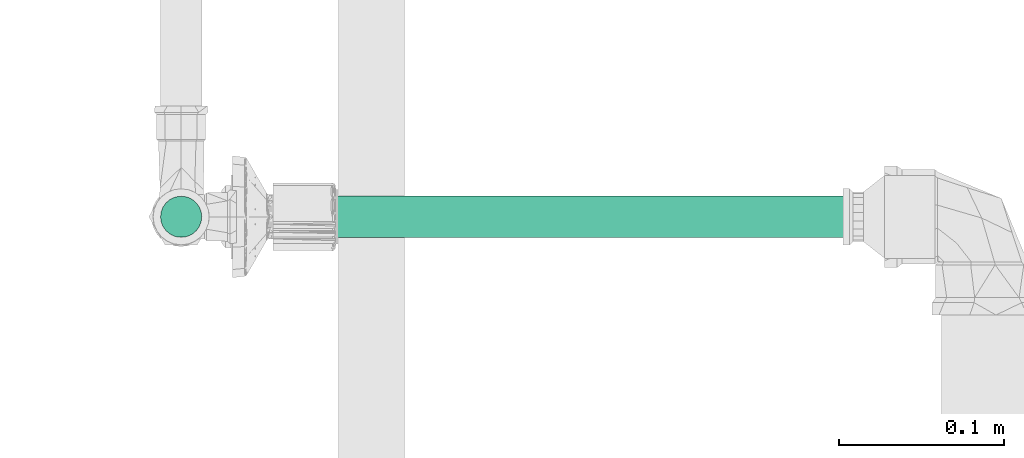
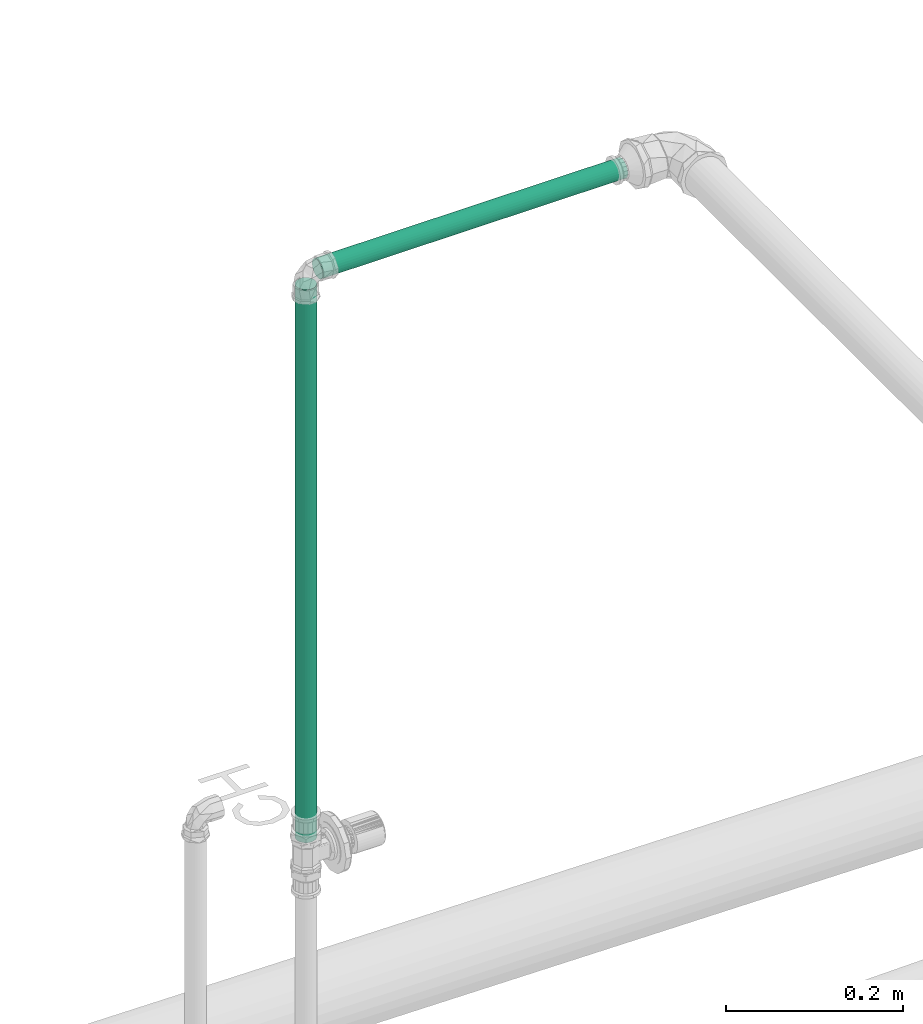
# One storey, part 94 of 589: 2 flow segments.
"""IFC2X3 building model written with IfcOpenShell, lengths in millimetres."""

from ifc_helpers import new_model, entity, si_unit, converted_unit, derived_unit, direction, frame, frame_2d, origin, origin_2d_with_axis, place, context, subcontext, project, spatial, circle, extrude, type_object, element, save


model = new_model("IFC2X3")

# Units and contexts
model_context = context("Model", 3, precision=0.01, world=origin(), true_north=direction((6.123031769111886e-17, 1.0)))
body_context = subcontext(model_context, "Body", "Model", "MODEL_VIEW")
ifc_project = project(units=[si_unit("LENGTHUNIT", "METRE", prefix="MILLI"), si_unit("AREAUNIT", "SQUARE_METRE"), si_unit("VOLUMEUNIT", "CUBIC_METRE"), converted_unit("PLANEANGLEUNIT", "DEGREE", entity("IfcRatioMeasure", 0.017453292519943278), si_unit("PLANEANGLEUNIT", "RADIAN"), dimensions=[0, 0, 0, 0, 0, 0, 0]), si_unit("MASSUNIT", "GRAM", prefix="KILO"), derived_unit("MASSDENSITYUNIT", [(si_unit("MASSUNIT", "GRAM", prefix="KILO"), 1), (si_unit("LENGTHUNIT", "METRE"), -3)]), derived_unit("IONCONCENTRATIONUNIT", [(si_unit("MASSUNIT", "GRAM", prefix="KILO"), 1), (si_unit("LENGTHUNIT", "METRE"), -3)]), derived_unit("MOMENTOFINERTIAUNIT", [(si_unit("LENGTHUNIT", "METRE"), 4)]), si_unit("TIMEUNIT", "SECOND"), si_unit("FREQUENCYUNIT", "HERTZ"), si_unit("THERMODYNAMICTEMPERATUREUNIT", "DEGREE_CELSIUS"), derived_unit("THERMALTRANSMITTANCEUNIT", [(si_unit("MASSUNIT", "GRAM", prefix="KILO"), 1), (si_unit("THERMODYNAMICTEMPERATUREUNIT", "KELVIN"), -1), (si_unit("TIMEUNIT", "SECOND"), -3)]), derived_unit("THERMALCONDUCTANCEUNIT", [(si_unit("MASSUNIT", "GRAM", prefix="KILO"), 1), (si_unit("THERMODYNAMICTEMPERATUREUNIT", "KELVIN"), -1), (si_unit("TIMEUNIT", "SECOND"), -3), (si_unit("LENGTHUNIT", "METRE"), 1)]), derived_unit("VOLUMETRICFLOWRATEUNIT", [(si_unit("LENGTHUNIT", "METRE"), 3), (si_unit("TIMEUNIT", "SECOND"), -1)]), derived_unit("MASSFLOWRATEUNIT", [(si_unit("MASSUNIT", "GRAM", prefix="KILO"), 1), (si_unit("TIMEUNIT", "SECOND"), -1)]), derived_unit("ROTATIONALFREQUENCYUNIT", [(si_unit("TIMEUNIT", "SECOND"), -1)]), si_unit("ELECTRICCURRENTUNIT", "AMPERE"), si_unit("ELECTRICVOLTAGEUNIT", "VOLT"), si_unit("POWERUNIT", "WATT"), si_unit("FORCEUNIT", "NEWTON", prefix="KILO"), si_unit("ILLUMINANCEUNIT", "LUX"), si_unit("LUMINOUSFLUXUNIT", "LUMEN"), si_unit("LUMINOUSINTENSITYUNIT", "CANDELA"), derived_unit("USERDEFINED", [(si_unit("MASSUNIT", "GRAM", prefix="KILO"), -1), (si_unit("LENGTHUNIT", "METRE"), -2), (si_unit("TIMEUNIT", "SECOND"), 3), (si_unit("LUMINOUSFLUXUNIT", "LUMEN"), 1)]), derived_unit("USERDEFINED", [(si_unit("MASSUNIT", "GRAM", prefix="KILO"), 1), (si_unit("TIMEUNIT", "SECOND"), -3), (si_unit("LENGTHUNIT", "METRE"), 3), (si_unit("ELECTRICCURRENTUNIT", "AMPERE"), -2)]), derived_unit("SOUNDPOWERUNIT", [(si_unit("MASSUNIT", "GRAM", prefix="KILO"), 1), (si_unit("TIMEUNIT", "SECOND"), -3), (si_unit("LENGTHUNIT", "METRE"), 2)]), derived_unit("SOUNDPRESSUREUNIT", [(si_unit("MASSUNIT", "GRAM", prefix="KILO"), 1), (si_unit("LENGTHUNIT", "METRE"), -1), (si_unit("TIMEUNIT", "SECOND"), -2)]), derived_unit("LINEARVELOCITYUNIT", [(si_unit("LENGTHUNIT", "METRE"), 1), (si_unit("TIMEUNIT", "SECOND"), -1)]), si_unit("PRESSUREUNIT", "PASCAL"), derived_unit("USERDEFINED", [(si_unit("MASSUNIT", "GRAM", prefix="KILO"), 1), (si_unit("LENGTHUNIT", "METRE"), -2), (si_unit("TIMEUNIT", "SECOND"), -2)]), derived_unit("LINEARFORCEUNIT", [(si_unit("MASSUNIT", "GRAM", prefix="KILO"), 1), (si_unit("TIMEUNIT", "SECOND"), -2)]), derived_unit("PLANARFORCEUNIT", [(si_unit("MASSUNIT", "GRAM", prefix="KILO"), 1), (si_unit("LENGTHUNIT", "METRE"), -1), (si_unit("TIMEUNIT", "SECOND"), -2)]), derived_unit("SPECIFICHEATCAPACITYUNIT", [(si_unit("THERMODYNAMICTEMPERATUREUNIT", "KELVIN"), -1), (si_unit("LENGTHUNIT", "METRE"), 2), (si_unit("TIMEUNIT", "SECOND"), -2)]), derived_unit("HEATINGVALUEUNIT", [(si_unit("LENGTHUNIT", "METRE"), 2), (si_unit("TIMEUNIT", "SECOND"), -2)]), derived_unit("VAPORPERMEABILITYUNIT", [(si_unit("LENGTHUNIT", "METRE"), -1), (si_unit("TIMEUNIT", "SECOND"), 1)]), derived_unit("DYNAMICVISCOSITYUNIT", [(si_unit("MASSUNIT", "GRAM", prefix="KILO"), 1), (si_unit("TIMEUNIT", "SECOND"), -1), (si_unit("LENGTHUNIT", "METRE"), -1)]), derived_unit("THERMALEXPANSIONCOEFFICIENTUNIT", [(si_unit("THERMODYNAMICTEMPERATUREUNIT", "KELVIN"), -1)]), derived_unit("MODULUSOFELASTICITYUNIT", [(si_unit("MASSUNIT", "GRAM", prefix="KILO"), 1), (si_unit("LENGTHUNIT", "METRE"), -1), (si_unit("TIMEUNIT", "SECOND"), -2)]), derived_unit("ISOTHERMALMOISTURECAPACITYUNIT", [(si_unit("LENGTHUNIT", "METRE"), 3), (si_unit("MASSUNIT", "GRAM", prefix="KILO"), -1)]), derived_unit("MOISTUREDIFFUSIVITYUNIT", [(si_unit("TIMEUNIT", "SECOND"), -1), (si_unit("LENGTHUNIT", "METRE"), 2)])], contexts=[model_context])

# Site, building, storey
site_placement = place(None, origin())
site = spatial("IfcSite", under=ifc_project, at=site_placement, Name="Default", CompositionType="ELEMENT")
building_placement = place(site_placement, origin())
building = spatial("IfcBuilding", under=site, at=building_placement, CompositionType="ELEMENT")
storey_placement = place(building_placement, frame((0.0, 0.0, 100.0)))
storey = spatial("IfcBuildingStorey", under=building, at=storey_placement, Name="TÉRREO", CompositionType="ELEMENT", Elevation=100.0)

# Flow segments
pipe_segment_type = type_object("IfcPipeSegmentType", Name="Tipos de tubos:PVC Marrom Soldável", PredefinedType="NOTDEFINED")
flow_segment_1_placement = place(storey_placement, origin())
element("IfcFlowSegment", 1, at=flow_segment_1_placement, inside=storey, type_object=pipe_segment_type, Name="Tipos de tubos:PVC Marrom Soldável", ObjectType="Tipos de tubos:PVC Marrom Soldável", context=body_context, shape_type="SweptSolid", body=[
    extrude(circle(Radius=12.5, at=frame_2d((1.353583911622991e-13, 0.0), x_axis=(1.0, 0.0))), frame((-7235.412352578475, 758.1190686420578, 3000.0), z_axis=(1.0, 0.0, 0.0), x_axis=(0.0, -1.0, 0.0)), (0.0, 0.0, 1.0), 398.6418617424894),
])
flow_segment_2_placement = place(storey_placement, origin())
element("IfcFlowSegment", 2, at=flow_segment_2_placement, inside=storey, type_object=pipe_segment_type, Name="Tipos de tubos:PVC Marrom Soldável", ObjectType="Tipos de tubos:PVC Marrom Soldável", context=body_context, shape_type="SweptSolid", body=[
    extrude(circle(Radius=12.5, at=origin_2d_with_axis()), frame((-7250.812352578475, 758.1190686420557, 2220.0), z_axis=(0.0, 0.0, 1.0), x_axis=(-1.0, 0.0, 0.0)), (0.0, 0.0, 1.0), 764.6000000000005),
])

save(model, "model.ifc")
